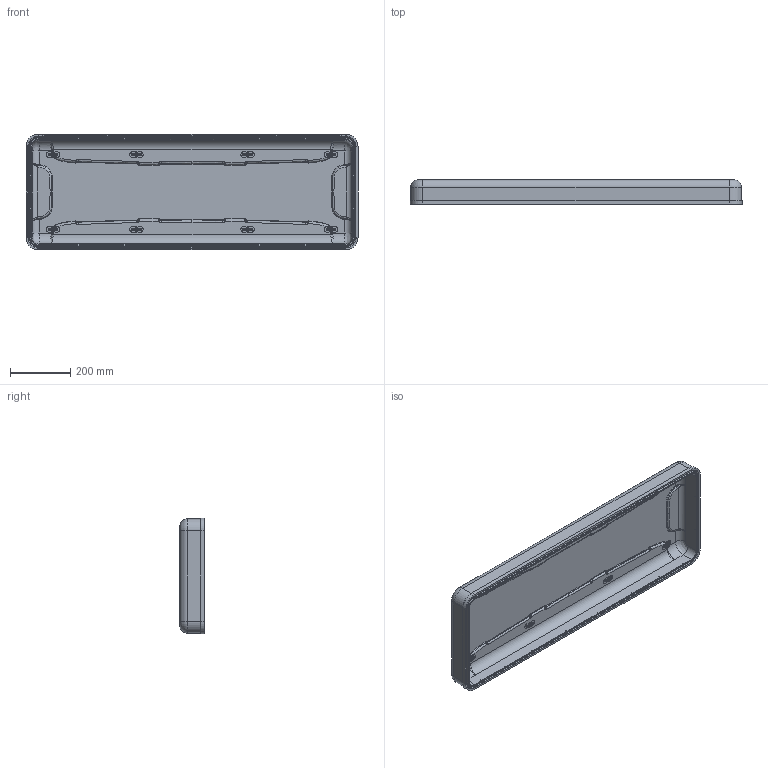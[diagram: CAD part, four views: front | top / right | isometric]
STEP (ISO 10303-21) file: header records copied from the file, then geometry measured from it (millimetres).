
FILE_DESCRIPTION (( 'STEP AP214' ), '1' );
FILE_NAME ('988_Top inner surface STEP.STEP', '2022-01-12T16:50:00', ( '' ), ( '' ), 'SwSTEP 2.0', 'SolidWorks 2021', '' );
FILE_SCHEMA (( 'AUTOMOTIVE_DESIGN' ));
Length unit declared in the file: inch
Products named in the file (1): 988_Top inner surface STEP
Bounding box: 1098.03 x 81.6 x 383.53 mm (x, y, z)
Volume: 8659854.3 mm3; surface area: 1245944 mm2
Topology: 1 solids, 1 shells, 1142 faces, 2857 edges, 1842 vertices
Faces by surface type: plane 419, bspline 415, cone 130, cylinder 108, torus 70
Entity records: 58847 total; most frequent: CARTESIAN_POINT 34251, ORIENTED_EDGE 5682, DIRECTION 4147, EDGE_CURVE 2841, VERTEX_POINT 1842, AXIS2_PLACEMENT_3D 1498, EDGE_LOOP 1283, LINE 1151
